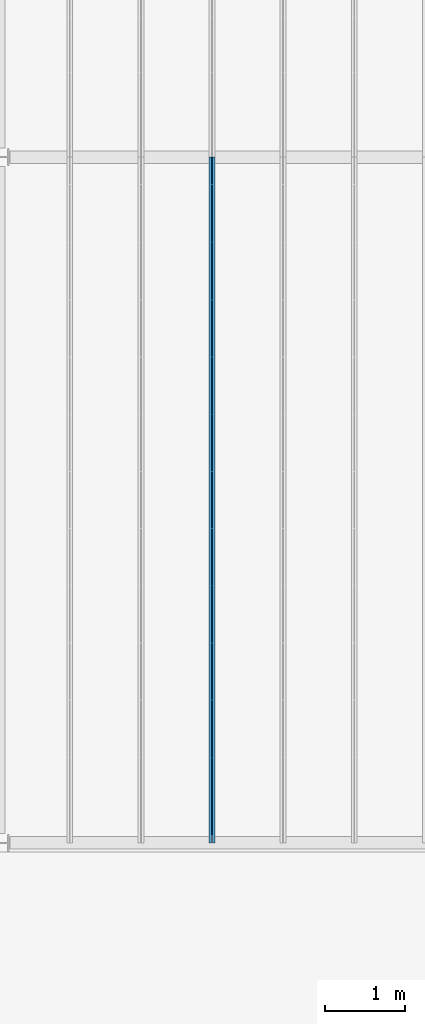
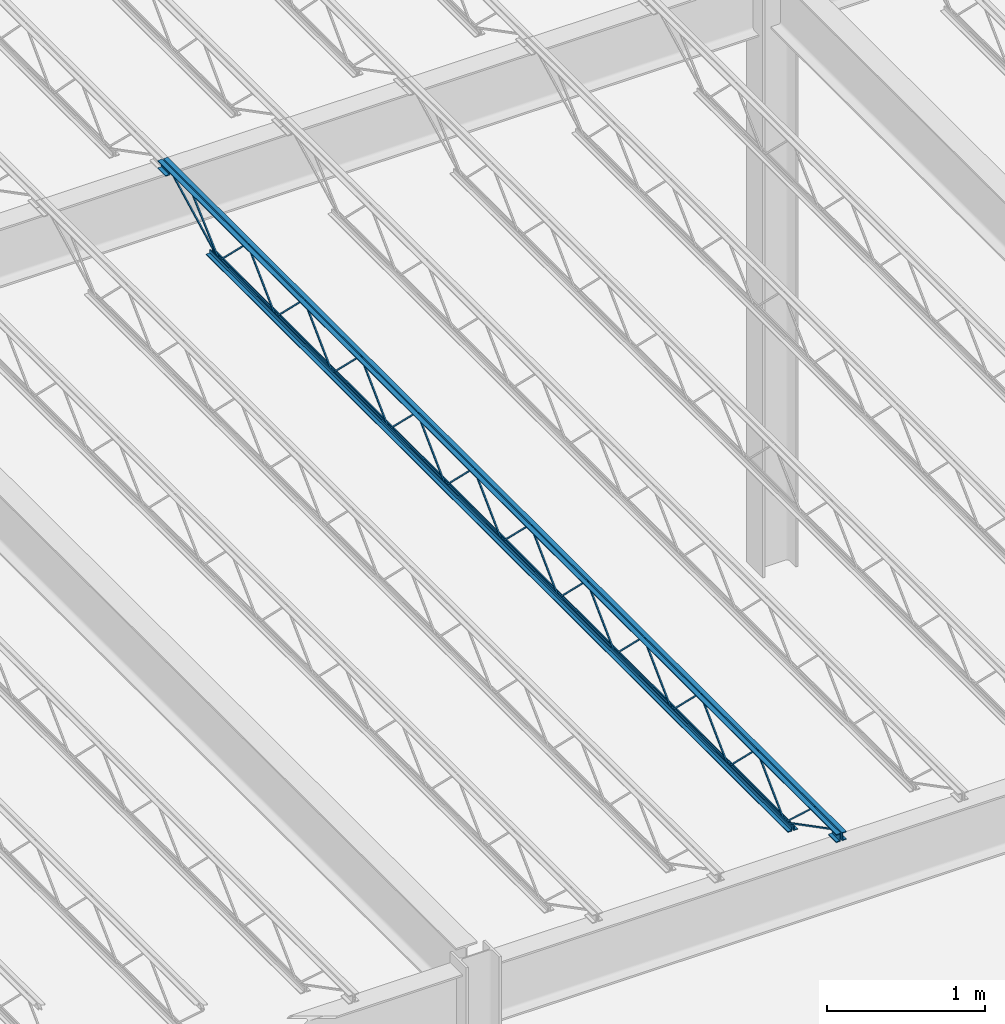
# One storey, part 35 of 119: 1 beam.
"""IFC2X3 building model written with IfcOpenShell, lengths in metres."""

from ifc_helpers import new_model, entity, si_unit, converted_unit, frame, origin, place, context, project, spatial, face_set, surface_model, element, save


model = new_model("IFC2X3")

# Units and contexts
model_context = context("Model", 3, precision=1e-09, world=origin())
plan_context = context("Plan", 3, precision=1e-09, world=origin())
ifc_project = project(units=[si_unit("LENGTHUNIT", "METRE"), si_unit("AREAUNIT", "SQUARE_METRE"), si_unit("VOLUMEUNIT", "CUBIC_METRE"), converted_unit("PLANEANGLEUNIT", "DEGREE", entity("IfcRatioMeasure", 0.01745329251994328), si_unit("PLANEANGLEUNIT", "RADIAN"), dimensions=[0, 0, 0, 0, 0, 0, 0]), si_unit("TIMEUNIT", "SECOND")], contexts=[model_context, plan_context])

# Site, building, storey
site_placement = place(None, origin())
site = spatial("IfcSite", under=ifc_project, at=site_placement, Name="Default", CompositionType="ELEMENT")
building_placement = place(site_placement, origin())
building = spatial("IfcBuilding", under=site, at=building_placement, CompositionType="ELEMENT")
storey_placement = place(building_placement, frame((0.0, 0.0, 4.570000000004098)))
storey = spatial("IfcBuildingStorey", under=building, at=storey_placement, Name="Second Floor", CompositionType="ELEMENT", Elevation=4.570000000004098)

# Beam
beam_placement = place(storey_placement, frame((-30.92050000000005, 10.04000000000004, 4.323999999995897), z_axis=(0.0, 0.0, 1.0), x_axis=(-1.0, 0.0, 0.0)))
element("IfcBeam", 1, at=beam_placement, inside=storey, Name="M_K-Series Bar Joist-Rod Web:14K1:14K1", ObjectType="M_K-Series Bar Joist-Rod Web:14K1", context=model_context, shape_type="SurfaceModel", body=[
    surface_model("IfcFaceBasedSurfaceModel", [(-0.03200000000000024, -2.141200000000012, 0.01110000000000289), (-0.04149999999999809, -2.141200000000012, 0.01110000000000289), (-0.04149999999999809, -2.141200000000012, 0.001600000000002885), (-0.03200000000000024, -2.141200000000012, 0.001600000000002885), (-0.04149999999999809, -2.139961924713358, 0.01110000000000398), (-0.03200000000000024, -2.139961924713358, 0.01110000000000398), (-0.04149999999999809, -2.136088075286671, 0.001600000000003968), (-0.04149999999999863, -1.785138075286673, 0.3449000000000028), (-0.04149999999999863, -1.782661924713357, 0.3449000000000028), (-0.04149999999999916, -1.431711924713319, 0.001600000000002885), (-0.04149999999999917, -1.426600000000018, 0.001600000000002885), (-0.04149999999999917, -1.426600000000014, 0.01110000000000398), (-0.04149999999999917, -1.427838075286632, 0.01110000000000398), (-0.04149999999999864, -1.77878807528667, 0.3544000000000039), (-0.04149999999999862, -1.78901192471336, 0.3544000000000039), (-0.03199999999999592, -2.136088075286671, 0.001600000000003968), (-0.03200000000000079, -1.785138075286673, 0.3449000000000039), (-0.03200000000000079, -1.782661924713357, 0.3449000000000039), (-0.03200000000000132, -1.431711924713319, 0.001600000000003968), (-0.03200000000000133, -1.426600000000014, 0.001600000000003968), (-0.03200000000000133, -1.426600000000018, 0.01110000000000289), (-0.03200000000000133, -1.427838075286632, 0.01110000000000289), (-0.03200000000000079, -1.77878807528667, 0.3544000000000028), (-0.03200000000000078, -1.78901192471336, 0.3544000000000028), (-0.03199999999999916, -2.855800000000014, 0.01110000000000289), (-0.04149999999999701, -2.855800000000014, 0.01110000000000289), (-0.04149999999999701, -2.855800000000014, 0.001600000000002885), (-0.03199999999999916, -2.855800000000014, 0.001600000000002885), (-0.04149999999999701, -2.854561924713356, 0.01110000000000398), (-0.03199999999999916, -2.854561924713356, 0.01110000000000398), (-0.04149999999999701, -2.850688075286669, 0.001600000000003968), (-0.04149999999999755, -2.499738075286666, 0.3449000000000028), (-0.04149999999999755, -2.497261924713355, 0.3449000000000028), (-0.04149999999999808, -2.146311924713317, 0.001600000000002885), (-0.04149999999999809, -2.141200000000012, 0.01110000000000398), (-0.04149999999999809, -2.14243807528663, 0.01110000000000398), (-0.04149999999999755, -2.493388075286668, 0.3544000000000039), (-0.04149999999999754, -2.503611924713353, 0.3544000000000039), (-0.03199999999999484, -2.850688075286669, 0.001600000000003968), (-0.0319999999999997, -2.499738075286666, 0.3449000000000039), (-0.0319999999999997, -2.497261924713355, 0.3449000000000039), (-0.03200000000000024, -2.146311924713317, 0.001600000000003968), (-0.03200000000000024, -2.141200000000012, 0.001600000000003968), (-0.03200000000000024, -2.14243807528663, 0.01110000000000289), (-0.03199999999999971, -2.493388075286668, 0.3544000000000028), (-0.0319999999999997, -2.503611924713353, 0.3544000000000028), (-0.03200000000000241, -3.570400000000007, 0.01110000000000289), (-0.04150000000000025, -3.570400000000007, 0.01110000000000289), (-0.04150000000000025, -3.570400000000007, 0.001600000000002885), (-0.03200000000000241, -3.570400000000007, 0.001600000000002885), (-0.04150000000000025, -3.569161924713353, 0.01110000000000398), (-0.03200000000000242, -3.569161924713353, 0.01110000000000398), (-0.04150000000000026, -3.565288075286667, 0.001600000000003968), (-0.04150000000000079, -3.214338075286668, 0.3449000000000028), (-0.04150000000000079, -3.211861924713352, 0.3449000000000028), (-0.04150000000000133, -2.860911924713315, 0.001600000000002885), (-0.04149999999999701, -2.855800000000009, 0.001600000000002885), (-0.04150000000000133, -2.855800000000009, 0.01110000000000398), (-0.04150000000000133, -2.857038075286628, 0.01110000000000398), (-0.0415000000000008, -3.207988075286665, 0.3544000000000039), (-0.04150000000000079, -3.218211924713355, 0.3544000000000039), (-0.03199999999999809, -3.565288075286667, 0.001600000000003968), (-0.03200000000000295, -3.214338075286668, 0.3449000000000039), (-0.03200000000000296, -3.211861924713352, 0.3449000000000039), (-0.03200000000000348, -2.860911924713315, 0.001600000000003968), (-0.03200000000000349, -2.855800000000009, 0.001600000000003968), (-0.03199999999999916, -2.855800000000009, 0.01110000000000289), (-0.03200000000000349, -2.857038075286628, 0.01110000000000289), (-0.03200000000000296, -3.207988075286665, 0.3544000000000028), (-0.03200000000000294, -3.218211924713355, 0.3544000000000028), (-0.03200000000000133, -4.285000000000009, 0.01110000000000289), (-0.04149999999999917, -4.285000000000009, 0.01110000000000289), (-0.04149999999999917, -4.285000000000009, 0.001600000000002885), (-0.03200000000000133, -4.285000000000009, 0.001600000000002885), (-0.04149999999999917, -4.283761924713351, 0.01110000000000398), (-0.03200000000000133, -4.283761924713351, 0.01110000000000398), (-0.04149999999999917, -4.279888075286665, 0.001600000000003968), (-0.0414999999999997, -3.928938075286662, 0.3449000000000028), (-0.04149999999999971, -3.92646192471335, 0.3449000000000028), (-0.04150000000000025, -3.575511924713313, 0.001600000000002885), (-0.04150000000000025, -3.570400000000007, 0.01110000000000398), (-0.04150000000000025, -3.571638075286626, 0.01110000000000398), (-0.04149999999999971, -3.922588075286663, 0.3544000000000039), (-0.0414999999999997, -3.932811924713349, 0.3544000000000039), (-0.031999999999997, -4.279888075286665, 0.001600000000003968), (-0.03200000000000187, -3.928938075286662, 0.3449000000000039), (-0.03200000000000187, -3.92646192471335, 0.3449000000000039), (-0.0320000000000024, -3.575511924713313, 0.001600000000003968), (-0.03200000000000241, -3.570400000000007, 0.001600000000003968), (-0.03200000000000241, -3.571638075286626, 0.01110000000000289), (-0.03200000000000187, -3.922588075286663, 0.3544000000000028), (-0.03200000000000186, -3.932811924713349, 0.3544000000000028), (-0.03200000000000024, -4.999600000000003, 0.01110000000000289), (-0.04149999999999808, -4.999600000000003, 0.01110000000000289), (-0.04149999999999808, -4.999600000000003, 0.001600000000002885), (-0.03200000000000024, -4.999600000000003, 0.001600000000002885), (-0.04149999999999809, -4.998361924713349, 0.01110000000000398), (-0.03200000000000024, -4.998361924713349, 0.01110000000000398), (-0.04149999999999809, -4.994488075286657, 0.001600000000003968), (-0.04149999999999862, -4.643538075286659, 0.3449000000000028), (-0.04149999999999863, -4.641061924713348, 0.3449000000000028), (-0.04149999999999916, -4.290111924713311, 0.001600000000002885), (-0.04149999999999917, -4.285000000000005, 0.001600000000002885), (-0.04149999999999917, -4.285000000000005, 0.01110000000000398), (-0.04149999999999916, -4.286238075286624, 0.01110000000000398), (-0.04149999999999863, -4.637188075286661, 0.3544000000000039), (-0.04149999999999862, -4.647411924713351, 0.3544000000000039), (-0.03199999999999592, -4.994488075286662, 0.001600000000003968), (-0.03200000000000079, -4.643538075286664, 0.3449000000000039), (-0.03200000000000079, -4.641061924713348, 0.3449000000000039), (-0.03200000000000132, -4.290111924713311, 0.001600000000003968), (-0.03200000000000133, -4.285000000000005, 0.001600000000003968), (-0.03200000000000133, -4.285000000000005, 0.01110000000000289), (-0.03200000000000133, -4.286238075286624, 0.01110000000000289), (-0.03200000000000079, -4.637188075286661, 0.3544000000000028), (-0.03200000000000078, -4.647411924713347, 0.3544000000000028), (-0.03200000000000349, -5.714200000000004, 0.01110000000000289), (-0.04150000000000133, -5.714200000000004, 0.01110000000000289), (-0.04150000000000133, -5.714200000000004, 0.001600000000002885), (-0.03200000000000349, -5.714200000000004, 0.001600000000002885), (-0.04150000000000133, -5.712961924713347, 0.01110000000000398), (-0.03200000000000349, -5.712961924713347, 0.01110000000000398), (-0.04149999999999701, -5.70908807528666, 0.001600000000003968), (-0.04149999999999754, -5.358138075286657, 0.3449000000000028), (-0.04149999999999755, -5.355661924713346, 0.3449000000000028), (-0.04149999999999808, -5.004711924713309, 0.001600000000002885), (-0.04150000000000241, -4.999600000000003, 0.01110000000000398), (-0.04150000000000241, -5.000838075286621, 0.01110000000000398), (-0.04150000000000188, -5.351788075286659, 0.3544000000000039), (-0.04150000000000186, -5.362011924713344, 0.3544000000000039), (-0.03199999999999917, -5.70908807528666, 0.001600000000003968), (-0.03200000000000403, -5.358138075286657, 0.3449000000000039), (-0.03200000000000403, -5.355661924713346, 0.3449000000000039), (-0.03200000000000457, -5.004711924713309, 0.001600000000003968), (-0.03200000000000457, -4.999600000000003, 0.001600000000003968), (-0.03200000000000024, -5.000838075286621, 0.01110000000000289), (-0.03199999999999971, -5.351788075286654, 0.3544000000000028), (-0.0319999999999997, -5.362011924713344, 0.3544000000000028), (-0.03200000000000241, -6.428799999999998, 0.01110000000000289), (-0.04150000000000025, -6.428799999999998, 0.01110000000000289), (-0.04150000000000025, -6.428799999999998, 0.001600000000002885), (-0.03200000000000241, -6.428799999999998, 0.001600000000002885), (-0.04150000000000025, -6.42756192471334, 0.01110000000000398), (-0.03200000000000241, -6.42756192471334, 0.01110000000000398), (-0.04150000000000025, -6.423688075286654, 0.001600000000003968), (-0.04150000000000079, -6.072738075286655, 0.3449000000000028), (-0.04150000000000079, -6.070261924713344, 0.3449000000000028), (-0.04150000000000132, -5.719311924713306, 0.001600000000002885), (-0.04150000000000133, -5.714199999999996, 0.001600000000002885), (-0.04150000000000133, -5.714199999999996, 0.01110000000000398), (-0.04150000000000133, -5.715438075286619, 0.01110000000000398), (-0.04150000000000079, -6.066388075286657, 0.3544000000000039), (-0.04150000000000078, -6.076611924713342, 0.3544000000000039), (-0.03199999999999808, -6.423688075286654, 0.001600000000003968), (-0.03200000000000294, -6.072738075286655, 0.3449000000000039), (-0.03200000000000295, -6.070261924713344, 0.3449000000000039), (-0.03200000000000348, -5.719311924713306, 0.001600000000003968), (-0.03200000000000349, -5.714199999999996, 0.001600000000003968), (-0.03200000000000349, -5.714199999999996, 0.01110000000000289), (-0.03200000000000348, -5.715438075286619, 0.01110000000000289), (-0.03200000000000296, -6.066388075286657, 0.3544000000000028), (-0.03200000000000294, -6.076611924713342, 0.3544000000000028), (-0.03200000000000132, -7.143399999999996, 0.01110000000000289), (-0.04149999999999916, -7.143399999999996, 0.01110000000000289), (-0.04149999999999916, -7.143399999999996, 0.001600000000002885), (-0.03200000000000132, -7.143399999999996, 0.001600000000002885), (-0.04149999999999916, -7.142161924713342, 0.01110000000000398), (-0.03200000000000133, -7.142161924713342, 0.01110000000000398), (-0.04149999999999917, -7.138288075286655, 0.001600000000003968), (-0.0414999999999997, -6.787338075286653, 0.3449000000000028), (-0.0414999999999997, -6.784861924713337, 0.3449000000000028), (-0.04150000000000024, -6.4339119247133, 0.001600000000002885), (-0.04150000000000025, -6.428799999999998, 0.01110000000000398), (-0.04150000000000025, -6.430038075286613, 0.01110000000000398), (-0.04149999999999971, -6.780988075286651, 0.3544000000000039), (-0.0414999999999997, -6.79121192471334, 0.3544000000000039), (-0.031999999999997, -7.138288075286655, 0.001600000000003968), (-0.03200000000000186, -6.787338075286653, 0.3449000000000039), (-0.03200000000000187, -6.784861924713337, 0.3449000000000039), (-0.0320000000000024, -6.4339119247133, 0.001600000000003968), (-0.03200000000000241, -6.428799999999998, 0.001600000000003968), (-0.0320000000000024, -6.430038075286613, 0.01110000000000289), (-0.03200000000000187, -6.780988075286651, 0.3544000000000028), (-0.03200000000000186, -6.79121192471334, 0.3544000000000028), (-0.03200000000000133, -1.426600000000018, 0.01109999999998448), (-0.04149999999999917, -1.426600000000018, 0.01109999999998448), (-0.04149999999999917, -1.426600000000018, 0.001599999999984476), (-0.03200000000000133, -1.426600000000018, 0.001599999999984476), (-0.04149999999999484, -1.42536192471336, 0.01109999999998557), (-0.031999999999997, -1.42536192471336, 0.01109999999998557), (-0.04149999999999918, -1.421488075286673, 0.001599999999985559), (-0.04149999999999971, -1.07053807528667, 0.3448999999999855), (-0.04149999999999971, -1.068061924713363, 0.3448999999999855), (-0.04150000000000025, -0.7171119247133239, 0.001599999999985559), (-0.04150000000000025, -0.712000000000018, 0.001599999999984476), (-0.04150000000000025, -0.7120000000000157, 0.01109999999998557), (-0.04150000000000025, -0.7132380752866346, 0.01109999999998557), (-0.04149999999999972, -1.064188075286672, 0.3543999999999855), (-0.0414999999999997, -1.074411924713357, 0.3543999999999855), (-0.031999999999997, -1.421488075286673, 0.001599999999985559), (-0.03199999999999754, -1.07053807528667, 0.3448999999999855), (-0.03199999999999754, -1.068061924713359, 0.3448999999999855), (-0.03199999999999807, -0.7171119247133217, 0.001599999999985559), (-0.03199999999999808, -0.7120000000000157, 0.001599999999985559), (-0.03200000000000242, -0.712000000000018, 0.01109999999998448), (-0.03199999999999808, -0.7132380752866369, 0.01109999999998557), (-0.03199999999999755, -1.064188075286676, 0.3543999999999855), (-0.03199999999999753, -1.074411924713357, 0.3543999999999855), (-0.03200000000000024, -7.857999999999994, 0.01110000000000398), (-0.04149999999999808, -7.857999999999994, 0.01110000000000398), (-0.04149999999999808, -7.857999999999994, 0.001600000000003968), (-0.03200000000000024, -7.857999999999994, 0.001600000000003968), (-0.04149999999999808, -7.856761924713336, 0.01110000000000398), (-0.03200000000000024, -7.856761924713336, 0.01110000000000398), (-0.04149999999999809, -7.852888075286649, 0.001600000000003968), (-0.04149999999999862, -7.501938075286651, 0.3449000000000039), (-0.04149999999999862, -7.499461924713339, 0.3449000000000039), (-0.04149999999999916, -7.148511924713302, 0.001600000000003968), (-0.04149999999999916, -7.143399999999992, 0.001600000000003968), (-0.04149999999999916, -7.143399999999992, 0.01110000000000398), (-0.04149999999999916, -7.144638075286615, 0.01110000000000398), (-0.04149999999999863, -7.495588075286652, 0.3544000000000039), (-0.04149999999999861, -7.505811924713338, 0.3544000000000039), (-0.03199999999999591, -7.852888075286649, 0.001600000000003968), (-0.03200000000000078, -7.501938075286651, 0.3449000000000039), (-0.03200000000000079, -7.499461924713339, 0.3449000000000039), (-0.03200000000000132, -7.148511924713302, 0.001600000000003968), (-0.03200000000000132, -7.143399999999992, 0.001600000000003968), (-0.03200000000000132, -7.143399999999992, 0.01110000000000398), (-0.03200000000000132, -7.144638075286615, 0.01110000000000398), (-0.03200000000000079, -7.495588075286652, 0.3544000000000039), (-0.03200000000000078, -7.505811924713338, 0.3544000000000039), (-0.04150000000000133, 0.0, 0.3559999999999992), (-0.07350000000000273, 0.0, 0.3559999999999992), (-0.07350000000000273, 0.0, 0.3494999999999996), (-0.04799999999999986, 0.0, 0.3494999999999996), (-0.04799999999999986, 0.0, 0.3239999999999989), (-0.04150000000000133, 0.0, 0.3239999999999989), (-0.03200000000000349, 0.0, 0.3559999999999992), (-0.03200000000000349, 0.0, 0.3239999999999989), (-0.02550000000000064, 0.0, 0.3239999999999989), (-0.02550000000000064, 0.0, 0.3494999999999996), (0.0, 0.0, 0.3494999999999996), (0.0, 0.0, 0.3559999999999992), (-0.04149999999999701, -8.569999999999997, 0.3559999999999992), (-0.07349999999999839, -8.569999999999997, 0.3559999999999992), (-0.07349999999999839, -8.569999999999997, 0.3494999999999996), (-0.04799999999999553, -8.569999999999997, 0.3494999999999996), (-0.04799999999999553, -8.569999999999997, 0.3239999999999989), (-0.04149999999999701, -8.569999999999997, 0.3239999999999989), (-0.03199999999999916, -8.569999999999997, 0.3559999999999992), (-0.03199999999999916, -8.569999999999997, 0.3239999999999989), (-0.02549999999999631, -8.569999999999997, 0.3239999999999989), (-0.02549999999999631, -8.569999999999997, 0.3494999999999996), (0.0, -8.569999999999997, 0.3494999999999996), (0.0, -8.569999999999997, 0.3559999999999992), (-0.03199999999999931, -8.470000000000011, 0.2924999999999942), (0.0, -8.470000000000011, 0.2924999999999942), (0.0, -8.470000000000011, 0.2989999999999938), (-0.02550000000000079, -8.470000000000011, 0.2989999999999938), (-0.02550000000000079, -8.470000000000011, 0.3239999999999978), (-0.03199999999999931, -8.470000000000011, 0.3239999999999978), (-0.07349999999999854, -8.470000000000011, 0.2924999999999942), (-0.04149999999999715, -8.470000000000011, 0.2924999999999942), (-0.04149999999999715, -8.470000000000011, 0.3239999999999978), (-0.048, -8.470000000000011, 0.3239999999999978), (-0.048, -8.470000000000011, 0.2989999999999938), (-0.07349999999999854, -8.470000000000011, 0.2989999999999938), (-0.03199999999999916, -8.569999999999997, 0.2924999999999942), (0.0, -8.569999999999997, 0.2924999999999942), (0.0, -8.569999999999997, 0.2989999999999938), (-0.02550000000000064, -8.569999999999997, 0.2989999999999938), (-0.02550000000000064, -8.569999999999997, 0.3239999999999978), (-0.03199999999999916, -8.569999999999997, 0.3239999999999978), (-0.07349999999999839, -8.569999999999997, 0.2924999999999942), (-0.04149999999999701, -8.569999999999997, 0.2924999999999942), (-0.04149999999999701, -8.569999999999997, 0.3239999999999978), (-0.04799999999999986, -8.569999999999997, 0.3239999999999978), (-0.04799999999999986, -8.569999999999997, 0.2989999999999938), (-0.07349999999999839, -8.569999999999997, 0.2989999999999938), (-0.04150000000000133, 0.0, 0.2924999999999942), (-0.04150000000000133, 0.0, 0.3239999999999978), (-0.04800000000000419, 0.0, 0.3239999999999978), (-0.04800000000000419, 0.0, 0.2989999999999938), (-0.07350000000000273, 0.0, 0.2989999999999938), (-0.07350000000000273, 0.0, 0.2924999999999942), (-0.03200000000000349, 0.0, 0.2924999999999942), (0.0, 0.0, 0.2924999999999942), (0.0, 0.0, 0.2989999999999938), (-0.02550000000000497, 0.0, 0.2989999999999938), (-0.02550000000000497, 0.0, 0.3239999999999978), (-0.03200000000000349, 0.0, 0.3239999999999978), (-0.04150000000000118, -0.09999999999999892, 0.2924999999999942), (-0.04150000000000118, -0.09999999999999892, 0.3239999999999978), (-0.04800000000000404, -0.09999999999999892, 0.3239999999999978), (-0.04800000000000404, -0.09999999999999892, 0.2989999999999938), (-0.07350000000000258, -0.09999999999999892, 0.2989999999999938), (-0.07350000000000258, -0.09999999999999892, 0.2924999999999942), (-0.03200000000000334, -0.09999999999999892, 0.2924999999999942), (0.0, -0.09999999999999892, 0.2924999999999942), (0.0, -0.09999999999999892, 0.2989999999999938), (-0.02550000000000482, -0.09999999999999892, 0.2989999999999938), (-0.02550000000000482, -0.09999999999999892, 0.3239999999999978), (-0.03200000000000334, -0.09999999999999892, 0.3239999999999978), (-0.04150000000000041, -0.6119999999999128, 0.0), (-0.04150000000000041, -0.6119999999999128, 0.03199999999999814), (-0.04799999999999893, -0.6119999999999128, 0.03199999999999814), (-0.04799999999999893, -0.6119999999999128, 0.006499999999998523), (-0.0735000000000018, -0.6119999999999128, 0.006499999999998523), (-0.0735000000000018, -0.6119999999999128, 0.0), (-0.03200000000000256, -0.6119999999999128, 0.0), (0.0, -0.6119999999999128, 0.0), (0.0, -0.6119999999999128, 0.006499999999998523), (-0.02549999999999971, -0.6119999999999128, 0.006499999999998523), (-0.02549999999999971, -0.6119999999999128, 0.03199999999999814), (-0.03200000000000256, -0.6119999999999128, 0.03199999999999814), (-0.04149999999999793, -7.957999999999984, 0.0), (-0.04149999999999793, -7.957999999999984, 0.03199999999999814), (-0.04799999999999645, -7.957999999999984, 0.03199999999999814), (-0.04799999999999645, -7.957999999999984, 0.006499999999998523), (-0.07349999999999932, -7.957999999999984, 0.006499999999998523), (-0.07349999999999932, -7.957999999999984, 0.0), (-0.03200000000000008, -7.957999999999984, 0.0), (0.0, -7.957999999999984, 0.0), (0.0, -7.957999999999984, 0.006499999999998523), (-0.02549999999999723, -7.957999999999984, 0.006499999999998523), (-0.02549999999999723, -7.957999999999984, 0.03199999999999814), (-0.03200000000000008, -7.957999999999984, 0.03199999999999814), (-0.03200000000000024, -7.855811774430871, 0.01056594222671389), (-0.04149999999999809, -7.855811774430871, 0.01056594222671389), (-0.04149999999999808, -7.860188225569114, 0.002134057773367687), (-0.03200000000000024, -7.860188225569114, 0.00213405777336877), (-0.03199999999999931, -8.468840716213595, 0.3287499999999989), (-0.03199999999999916, -8.569999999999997, 0.3287499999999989), (-0.03199999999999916, -8.569999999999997, 0.3192499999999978), (-0.03199999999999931, -8.471159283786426, 0.3192499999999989), (-0.04150000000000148, -8.471159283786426, 0.3192499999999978), (-0.04149999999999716, -8.468840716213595, 0.3287499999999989), (-0.04149999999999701, -8.569999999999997, 0.3287499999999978), (-0.04149999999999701, -8.569999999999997, 0.3192499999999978), (-0.03199999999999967, -8.23525714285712, 0.3417000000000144), (-0.04149999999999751, -8.23525714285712, 0.3417000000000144), (-0.04149999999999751, -8.23525714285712, 0.3322000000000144), (-0.03199999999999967, -8.23525714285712, 0.3322000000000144), (-0.04149999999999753, -8.22072410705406, 0.3417000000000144), (-0.03199999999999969, -8.22072410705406, 0.3417000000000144), (-0.04149999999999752, -8.224390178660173, 0.3322000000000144), (-0.04149999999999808, -7.861190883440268, 0.002831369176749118), (-0.04149999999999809, -7.854809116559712, 0.009868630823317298), (-0.03199999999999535, -8.224390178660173, 0.3322000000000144), (-0.03200000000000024, -7.861190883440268, 0.002831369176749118), (-0.03200000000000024, -7.854809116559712, 0.009868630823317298), (-0.03200000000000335, -0.09781177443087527, 0.3197840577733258), (-0.03200000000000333, -0.1021882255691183, 0.328215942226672), (-0.04150000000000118, -0.1021882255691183, 0.328215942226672), (-0.04150000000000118, -0.09781177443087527, 0.3197840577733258), (-0.03200000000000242, -0.7098117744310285, 0.002134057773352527), (-0.03200000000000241, -0.7141882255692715, 0.01056594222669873), (-0.04150000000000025, -0.7141882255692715, 0.01056594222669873), (-0.04150000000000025, -0.7098117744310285, 0.002134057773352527), (-0.03200000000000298, -0.3369634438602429, 0.3461600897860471), (-0.03200000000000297, -0.3434079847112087, 0.3531399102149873), (-0.04150000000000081, -0.3434079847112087, 0.3531399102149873), (-0.04150000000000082, -0.3369634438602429, 0.3461600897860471), (-0.03200000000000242, -0.7087777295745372, 0.00286008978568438), (-0.03200000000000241, -0.7152222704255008, 0.009839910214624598), (-0.04150000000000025, -0.7152222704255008, 0.009839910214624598), (-0.04150000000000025, -0.7087777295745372, 0.00286008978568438)], [face_set([[[0, 1, 2, 3]], [[1, 4, 5, 0]], [[2, 6, 7, 8, 9, 10, 11, 12, 13, 14, 4, 1]], [[3, 2, 6, 15]], [[0, 3, 15, 16, 17, 18, 19, 20, 21, 22, 23, 5]], [[4, 5, 23, 14]], [[15, 16, 7, 6]], [[14, 13, 22, 23]], [[16, 7, 8, 17]], [[13, 12, 21, 22]], [[17, 8, 9, 18]], [[20, 11, 10, 19]], [[12, 11, 20, 21]], [[18, 9, 10, 19]]]), face_set([[[24, 25, 26, 27]], [[25, 28, 29, 24]], [[26, 30, 31, 32, 33, 2, 34, 35, 36, 37, 28, 25]], [[27, 26, 30, 38]], [[24, 27, 38, 39, 40, 41, 42, 0, 43, 44, 45, 29]], [[28, 29, 45, 37]], [[38, 39, 31, 30]], [[37, 36, 44, 45]], [[39, 31, 32, 40]], [[36, 35, 43, 44]], [[40, 32, 33, 41]], [[0, 34, 2, 42]], [[35, 34, 0, 43]], [[41, 33, 2, 42]]]), face_set([[[46, 47, 48, 49]], [[47, 50, 51, 46]], [[48, 52, 53, 54, 55, 56, 57, 58, 59, 60, 50, 47]], [[49, 48, 52, 61]], [[46, 49, 61, 62, 63, 64, 65, 66, 67, 68, 69, 51]], [[50, 51, 69, 60]], [[61, 62, 53, 52]], [[60, 59, 68, 69]], [[62, 53, 54, 63]], [[59, 58, 67, 68]], [[63, 54, 55, 64]], [[66, 57, 56, 65]], [[58, 57, 66, 67]], [[64, 55, 56, 65]]]), face_set([[[70, 71, 72, 73]], [[71, 74, 75, 70]], [[72, 76, 77, 78, 79, 48, 80, 81, 82, 83, 74, 71]], [[73, 72, 76, 84]], [[70, 73, 84, 85, 86, 87, 88, 46, 89, 90, 91, 75]], [[74, 75, 91, 83]], [[84, 85, 77, 76]], [[83, 82, 90, 91]], [[85, 77, 78, 86]], [[82, 81, 89, 90]], [[86, 78, 79, 87]], [[46, 80, 48, 88]], [[81, 80, 46, 89]], [[87, 79, 48, 88]]]), face_set([[[92, 93, 94, 95]], [[93, 96, 97, 92]], [[94, 98, 99, 100, 101, 102, 103, 104, 105, 106, 96, 93]], [[95, 94, 98, 107]], [[92, 95, 107, 108, 109, 110, 111, 112, 113, 114, 115, 97]], [[96, 97, 115, 106]], [[107, 108, 99, 98]], [[106, 105, 114, 115]], [[108, 99, 100, 109]], [[105, 104, 113, 114]], [[109, 100, 101, 110]], [[112, 103, 102, 111]], [[104, 103, 112, 113]], [[110, 101, 102, 111]]]), face_set([[[116, 117, 118, 119]], [[117, 120, 121, 116]], [[118, 122, 123, 124, 125, 94, 126, 127, 128, 129, 120, 117]], [[119, 118, 122, 130]], [[116, 119, 130, 131, 132, 133, 134, 92, 135, 136, 137, 121]], [[120, 121, 137, 129]], [[130, 131, 123, 122]], [[129, 128, 136, 137]], [[131, 123, 124, 132]], [[128, 127, 135, 136]], [[132, 124, 125, 133]], [[92, 126, 94, 134]], [[127, 126, 92, 135]], [[133, 125, 94, 134]]]), face_set([[[138, 139, 140, 141]], [[139, 142, 143, 138]], [[140, 144, 145, 146, 147, 148, 149, 150, 151, 152, 142, 139]], [[141, 140, 144, 153]], [[138, 141, 153, 154, 155, 156, 157, 158, 159, 160, 161, 143]], [[142, 143, 161, 152]], [[153, 154, 145, 144]], [[152, 151, 160, 161]], [[154, 145, 146, 155]], [[151, 150, 159, 160]], [[155, 146, 147, 156]], [[158, 149, 148, 157]], [[150, 149, 158, 159]], [[156, 147, 148, 157]]]), face_set([[[162, 163, 164, 165]], [[163, 166, 167, 162]], [[164, 168, 169, 170, 171, 140, 172, 173, 174, 175, 166, 163]], [[165, 164, 168, 176]], [[162, 165, 176, 177, 178, 179, 180, 138, 181, 182, 183, 167]], [[166, 167, 183, 175]], [[176, 177, 169, 168]], [[175, 174, 182, 183]], [[177, 169, 170, 178]], [[174, 173, 181, 182]], [[178, 170, 171, 179]], [[138, 172, 140, 180]], [[173, 172, 138, 181]], [[179, 171, 140, 180]]]), face_set([[[184, 185, 186, 187]], [[185, 188, 189, 184]], [[186, 190, 191, 192, 193, 194, 195, 196, 197, 198, 188, 185]], [[187, 186, 190, 199]], [[184, 187, 199, 200, 201, 202, 203, 204, 205, 206, 207, 189]], [[188, 189, 207, 198]], [[199, 200, 191, 190]], [[198, 197, 206, 207]], [[200, 191, 192, 201]], [[197, 196, 205, 206]], [[201, 192, 193, 202]], [[204, 195, 194, 203]], [[196, 195, 204, 205]], [[202, 193, 194, 203]]]), face_set([[[208, 209, 210, 211]], [[209, 212, 213, 208]], [[210, 214, 215, 216, 217, 218, 219, 220, 221, 222, 212, 209]], [[211, 210, 214, 223]], [[208, 211, 223, 224, 225, 226, 227, 228, 229, 230, 231, 213]], [[212, 213, 231, 222]], [[223, 224, 215, 214]], [[222, 221, 230, 231]], [[224, 215, 216, 225]], [[221, 220, 229, 230]], [[225, 216, 217, 226]], [[228, 219, 218, 227]], [[220, 219, 228, 229]], [[226, 217, 218, 227]]]), face_set([[[232, 233, 234, 235, 236, 237]], [[238, 239, 240, 241, 242, 243]], [[244, 245, 246, 247, 248, 249]], [[250, 251, 252, 253, 254, 255]], [[237, 232, 244, 249]], [[236, 237, 249, 248]], [[235, 247, 248, 236]], [[234, 235, 247, 246]], [[233, 245, 246, 234]], [[232, 244, 245, 233]], [[243, 255, 250, 238]], [[242, 243, 255, 254]], [[241, 242, 254, 253]], [[240, 241, 253, 252]], [[239, 240, 252, 251]], [[238, 250, 251, 239]]]), face_set([[[256, 257, 258, 259, 260, 261]], [[262, 263, 264, 265, 266, 267]], [[268, 269, 270, 271, 272, 273]], [[274, 275, 276, 277, 278, 279]], [[261, 273, 268, 256]], [[260, 272, 273, 261]], [[259, 260, 272, 271]], [[258, 270, 271, 259]], [[257, 258, 270, 269]], [[256, 257, 269, 268]], [[267, 279, 274, 262]], [[266, 278, 279, 267]], [[265, 277, 278, 266]], [[264, 276, 277, 265]], [[263, 264, 276, 275]], [[262, 263, 275, 274]]]), face_set([[[280, 281, 282, 283, 284, 285]], [[286, 287, 288, 289, 290, 291]], [[292, 293, 294, 295, 296, 297]], [[298, 299, 300, 301, 302, 303]], [[285, 280, 292, 297]], [[284, 296, 297, 285]], [[283, 295, 296, 284]], [[282, 294, 295, 283]], [[281, 293, 294, 282]], [[280, 281, 293, 292]], [[291, 303, 298, 286]], [[290, 302, 303, 291]], [[289, 290, 302, 301]], [[288, 300, 301, 289]], [[287, 288, 300, 299]], [[286, 287, 299, 298]]]), face_set([[[304, 305, 306, 307, 308, 309]], [[310, 311, 312, 313, 314, 315]], [[316, 317, 318, 319, 320, 321]], [[322, 323, 324, 325, 326, 327]], [[309, 304, 316, 321]], [[308, 320, 321, 309]], [[307, 319, 320, 308]], [[306, 318, 319, 307]], [[305, 317, 318, 306]], [[304, 305, 317, 316]], [[315, 327, 322, 310]], [[314, 326, 327, 315]], [[313, 314, 326, 325]], [[312, 324, 325, 313]], [[311, 312, 324, 323]], [[310, 311, 323, 322]]]), face_set([[[328, 329, 330, 331]], [[331, 328, 332, 333, 334, 335]], [[330, 331, 335, 336]], [[329, 337, 338, 339, 336, 330]], [[328, 332, 337, 329]], [[333, 338, 339, 334]], [[336, 335, 334, 339]], [[332, 333, 338, 337]]]), face_set([[[340, 341, 342, 343]], [[341, 344, 345, 340]], [[342, 346, 347, 348, 344, 341]], [[343, 342, 346, 349]], [[340, 343, 349, 350, 351, 345]], [[351, 348, 347, 350]], [[344, 348, 351, 345]], [[349, 346, 347, 350]]]), face_set([[[352, 353, 354, 355]], [[356, 357, 358, 359]], [[355, 352, 356, 359]], [[354, 358, 359, 355]], [[353, 357, 358, 354]], [[352, 353, 357, 356]]]), face_set([[[360, 361, 362, 363]], [[364, 365, 366, 367]], [[363, 367, 364, 360]], [[362, 366, 367, 363]], [[361, 362, 366, 365]], [[360, 361, 365, 364]]])]),
])

save(model, "model.ifc")
